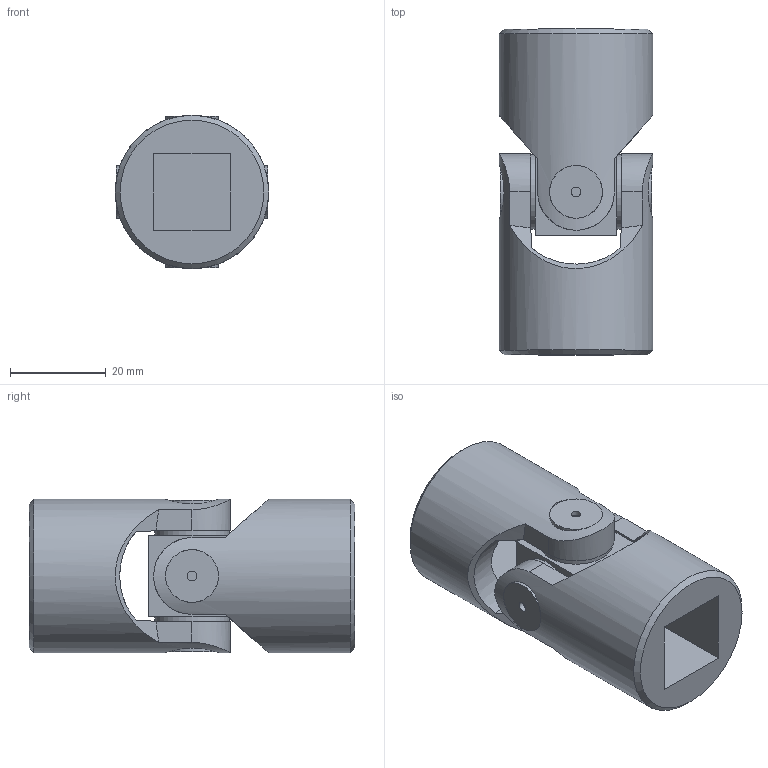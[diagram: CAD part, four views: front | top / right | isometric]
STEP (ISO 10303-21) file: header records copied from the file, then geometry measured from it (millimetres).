
FILE_DESCRIPTION(/* description */ (''),/* implementation_level */ '2;1');
FILE_NAME(/* name */ '\\SRV2016\societa\Stefano\Disegni 3D\Dis. Clienti\0000Catalogo 3D\01Singoli G-GB\SG0S162Q.stp',/* time_stamp */ '2021-11-08T16:52:43+01:00',/* author */ ('acquisti'),/* organization */ (''),/* preprocessor_version */ 'ST-DEVELOPER v15.6',/* originating_system */ 'Autodesk Inventor 2015',/* authorisation */ '');
FILE_SCHEMA (('AUTOMOTIVE_DESIGN { 1 0 10303 214 3 1 1 }'));
Length unit declared in the file: millimetre
Products named in the file (3): 1G SFE; 1G MOQ; Assieme1
Assembly tree (3 placements, depth 2):
  Assieme1
    1G SFE
    1G MOQ  x2
Bounding box: 32 x 68 x 32 mm (x, y, z)
Volume: 35627.7 mm3; surface area: 14028.2 mm2
Topology: 3 solids, 3 shells, 102 faces, 248 edges, 162 vertices
Faces by surface type: plane 44, cylinder 38, cone 18, torus 2
Full cylindrical faces by diameter (mm): 2 x4, 15.5 x4, 32 x2
Entity records: 1869 total; most frequent: CARTESIAN_POINT 567, DIRECTION 252, ORIENTED_EDGE 250, EDGE_CURVE 125, AXIS2_PLACEMENT_3D 106, VERTEX_POINT 87, EDGE_LOOP 76, FACE_OUTER_BOUND 58
